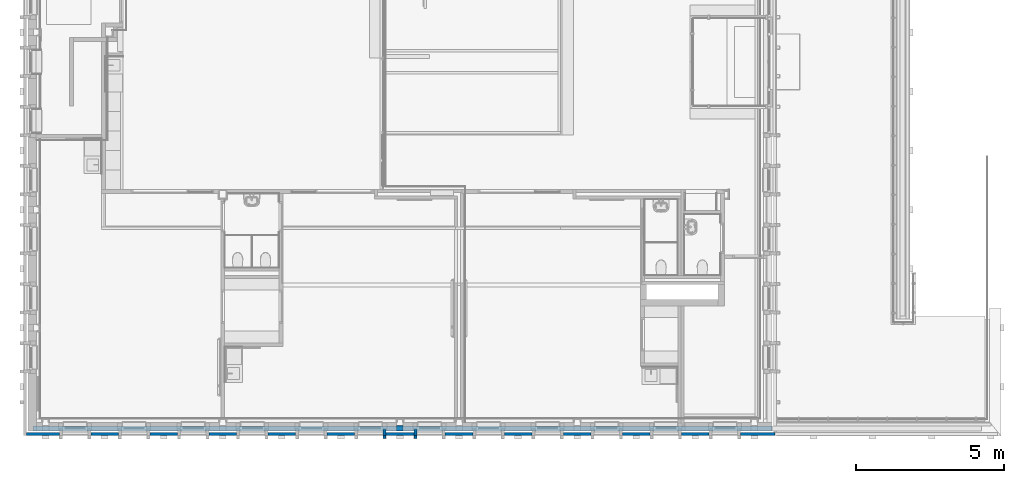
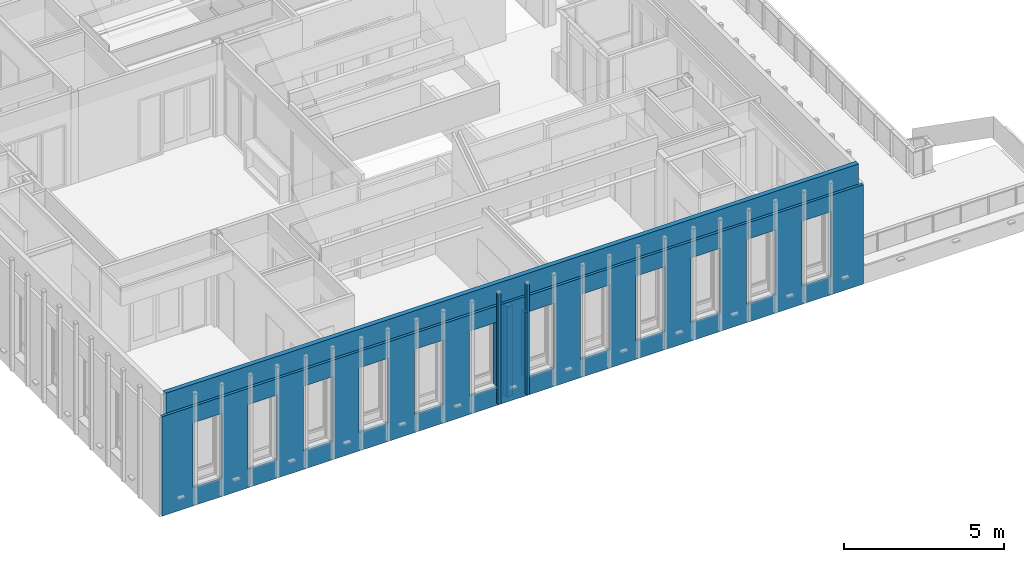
# One storey, part 29 of 118: 7 walls, 12 openings.
"""IFC2X3 building model written with IfcOpenShell, lengths in millimetres."""

from ifc_helpers import new_model, entity, si_unit, converted_unit, derived_unit, direction, frame, frame_2d, origin, place, context, subcontext, project, spatial, rectangle, extrude, faceted_brep, material, layer, layer_set, layer_usage, type_object, element, save


model = new_model("IFC2X3")

# Units and contexts
model_context = context("Model", 3, precision=0.01, world=origin(), true_north=direction((6.123031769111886e-17, 1.0)))
plan_context = context("Plan", 3, precision=0.01, world=origin(), true_north=direction((6.123031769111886e-17, 1.0)))
body_context = subcontext(model_context, "Body", "Model", "MODEL_VIEW")
ifc_project = project(units=[si_unit("LENGTHUNIT", "METRE", prefix="MILLI"), si_unit("AREAUNIT", "SQUARE_METRE"), si_unit("VOLUMEUNIT", "CUBIC_METRE"), converted_unit("PLANEANGLEUNIT", "DEGREE", entity("IfcRatioMeasure", 0.017453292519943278), si_unit("PLANEANGLEUNIT", "RADIAN"), dimensions=[0, 0, 0, 0, 0, 0, 0]), si_unit("MASSUNIT", "GRAM", prefix="KILO"), derived_unit("MASSDENSITYUNIT", [(si_unit("MASSUNIT", "GRAM", prefix="KILO"), 1), (si_unit("LENGTHUNIT", "METRE"), -3)]), derived_unit("IONCONCENTRATIONUNIT", [(si_unit("MASSUNIT", "GRAM", prefix="KILO"), 1), (si_unit("LENGTHUNIT", "METRE"), -3)]), derived_unit("MOMENTOFINERTIAUNIT", [(si_unit("LENGTHUNIT", "METRE"), 4)]), si_unit("TIMEUNIT", "SECOND"), si_unit("FREQUENCYUNIT", "HERTZ"), si_unit("THERMODYNAMICTEMPERATUREUNIT", "DEGREE_CELSIUS"), derived_unit("THERMALTRANSMITTANCEUNIT", [(si_unit("MASSUNIT", "GRAM", prefix="KILO"), 1), (si_unit("THERMODYNAMICTEMPERATUREUNIT", "KELVIN"), -1), (si_unit("TIMEUNIT", "SECOND"), -3)]), derived_unit("THERMALCONDUCTANCEUNIT", [(si_unit("MASSUNIT", "GRAM", prefix="KILO"), 1), (si_unit("THERMODYNAMICTEMPERATUREUNIT", "KELVIN"), -1), (si_unit("TIMEUNIT", "SECOND"), -3), (si_unit("LENGTHUNIT", "METRE"), 1)]), derived_unit("VOLUMETRICFLOWRATEUNIT", [(si_unit("LENGTHUNIT", "METRE"), 3), (si_unit("TIMEUNIT", "SECOND"), -1)]), derived_unit("MASSFLOWRATEUNIT", [(si_unit("MASSUNIT", "GRAM", prefix="KILO"), 1), (si_unit("TIMEUNIT", "SECOND"), -1)]), derived_unit("ROTATIONALFREQUENCYUNIT", [(si_unit("TIMEUNIT", "SECOND"), -1)]), si_unit("ELECTRICCURRENTUNIT", "AMPERE"), si_unit("ELECTRICVOLTAGEUNIT", "VOLT"), si_unit("POWERUNIT", "WATT"), si_unit("FORCEUNIT", "NEWTON", prefix="KILO"), si_unit("ILLUMINANCEUNIT", "LUX"), si_unit("LUMINOUSFLUXUNIT", "LUMEN"), si_unit("LUMINOUSINTENSITYUNIT", "CANDELA"), derived_unit("USERDEFINED", [(si_unit("MASSUNIT", "GRAM", prefix="KILO"), -1), (si_unit("LENGTHUNIT", "METRE"), -2), (si_unit("TIMEUNIT", "SECOND"), 3), (si_unit("LUMINOUSFLUXUNIT", "LUMEN"), 1)]), derived_unit("USERDEFINED", [(si_unit("MASSUNIT", "GRAM", prefix="KILO"), 1), (si_unit("TIMEUNIT", "SECOND"), -3), (si_unit("LENGTHUNIT", "METRE"), 3), (si_unit("ELECTRICCURRENTUNIT", "AMPERE"), -2)]), derived_unit("SOUNDPOWERUNIT", [(si_unit("MASSUNIT", "GRAM", prefix="KILO"), 1), (si_unit("TIMEUNIT", "SECOND"), -3), (si_unit("LENGTHUNIT", "METRE"), 2)]), derived_unit("SOUNDPRESSUREUNIT", [(si_unit("MASSUNIT", "GRAM", prefix="KILO"), 1), (si_unit("LENGTHUNIT", "METRE"), -1), (si_unit("TIMEUNIT", "SECOND"), -2)]), derived_unit("LINEARVELOCITYUNIT", [(si_unit("LENGTHUNIT", "METRE"), 1), (si_unit("TIMEUNIT", "SECOND"), -1)]), si_unit("PRESSUREUNIT", "PASCAL"), derived_unit("USERDEFINED", [(si_unit("MASSUNIT", "GRAM", prefix="KILO"), 1), (si_unit("LENGTHUNIT", "METRE"), -2), (si_unit("TIMEUNIT", "SECOND"), -2)]), derived_unit("LINEARFORCEUNIT", [(si_unit("MASSUNIT", "GRAM", prefix="KILO"), 1), (si_unit("TIMEUNIT", "SECOND"), -2)]), derived_unit("PLANARFORCEUNIT", [(si_unit("MASSUNIT", "GRAM", prefix="KILO"), 1), (si_unit("LENGTHUNIT", "METRE"), -1), (si_unit("TIMEUNIT", "SECOND"), -2)]), derived_unit("SPECIFICHEATCAPACITYUNIT", [(si_unit("THERMODYNAMICTEMPERATUREUNIT", "KELVIN"), -1), (si_unit("LENGTHUNIT", "METRE"), 2), (si_unit("TIMEUNIT", "SECOND"), -2)]), derived_unit("HEATINGVALUEUNIT", [(si_unit("LENGTHUNIT", "METRE"), 2), (si_unit("TIMEUNIT", "SECOND"), -2)]), derived_unit("VAPORPERMEABILITYUNIT", [(si_unit("LENGTHUNIT", "METRE"), -1), (si_unit("TIMEUNIT", "SECOND"), 1)]), derived_unit("DYNAMICVISCOSITYUNIT", [(si_unit("MASSUNIT", "GRAM", prefix="KILO"), 1), (si_unit("TIMEUNIT", "SECOND"), -1), (si_unit("LENGTHUNIT", "METRE"), -1)]), derived_unit("THERMALEXPANSIONCOEFFICIENTUNIT", [(si_unit("THERMODYNAMICTEMPERATUREUNIT", "KELVIN"), -1)]), derived_unit("MODULUSOFELASTICITYUNIT", [(si_unit("MASSUNIT", "GRAM", prefix="KILO"), 1), (si_unit("LENGTHUNIT", "METRE"), -1), (si_unit("TIMEUNIT", "SECOND"), -2)]), derived_unit("ISOTHERMALMOISTURECAPACITYUNIT", [(si_unit("LENGTHUNIT", "METRE"), 3), (si_unit("MASSUNIT", "GRAM", prefix="KILO"), -1)]), derived_unit("MOISTUREDIFFUSIVITYUNIT", [(si_unit("TIMEUNIT", "SECOND"), -1), (si_unit("LENGTHUNIT", "METRE"), 2)])], contexts=[model_context, plan_context])

# Site, building, storey
site_placement = place(None, origin())
site = spatial("IfcSite", under=ifc_project, at=site_placement, Name="Locatie", CompositionType="ELEMENT")
building_placement = place(site_placement, origin())
building = spatial("IfcBuilding", under=site, at=building_placement, Name="Bouwwerk", CompositionType="ELEMENT")
storey_placement = place(building_placement, frame((0.0, 0.0, 7800.0)))
storey = spatial("IfcBuildingStorey", under=building, at=storey_placement, Name="02 tweede verdieping", CompositionType="ELEMENT", Elevation=7800.000000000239)

# Wall, openings
ifc_material_1 = material(Name="g2_metselwerk_geel licht")
ifc_layer_1 = layer(ifc_material_1, 100.0)
ifc_layer_set_1 = layer_set([ifc_layer_1], Name="Basic Wall:21_WA_metselwerk_licht_100_gen_bdg")
ifc_layer_usage_1 = layer_usage(ifc_layer_set_1, "AXIS2", "NEGATIVE", 50.0)
wall_type_1 = type_object("IfcWallType", Name="Basic Wall:21_WA_metselwerk_licht_100_gen_bdg", PredefinedType="STANDARD", material=ifc_layer_set_1)
wall_1_placement = place(storey_placement, frame((35040.0, 9610.0, -100.0), z_axis=(0.0, 0.0, 1.0), x_axis=(-1.0, 0.0, 0.0)))
wall_1 = element("IfcWallStandardCase", 1, at=wall_1_placement, inside=storey, type_object=wall_type_1, material=ifc_layer_usage_1, Name="Basic Wall:21_WA_metselwerk_licht_100_gen_bdg", ObjectType="Basic Wall:21_WA_metselwerk_licht_100_gen_bdg", context=body_context, shape_type="SweptSolid", body=[
    extrude(rectangle(XDim=25329.999999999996, YDim=100.0, at=frame_2d((12714.999999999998, 6.110667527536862e-13), x_axis=(-1.0, 0.0))), origin(), (0.0, 0.0, 1.0), 3800.000000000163),
])
opening_1_placement = place(wall_1_placement, frame((4296.0, 50.0, 703.0)))
element("IfcOpeningElement", 2, at=opening_1_placement, cuts=wall_1, Name="Basic Wall:21_WA_metselwerk_licht_100_gen_bdg", ObjectType="Opening", context=body_context, shape_type="Brep", body=[
    faceted_brep([(-24.0, -100.0, 2472.0), (-103.0, -100.0, 2472.0), (-103.0, -100.0, 42.0), (-1009.0, -100.0, 42.0), (-1009.0, -100.0, 2472.0), (-1088.0, -100.0, 2472.0), (-1088.0, -100.0, 0.0), (-24.0, -100.0, 0.0), (-1088.0, 0.0, 2472.0), (-24.0, 0.0, 2472.0), (-24.0, 0.0, 0.0), (-1088.0, 0.0, 0.0), (-1112.0, -415.0, 2594.0), (-1112.0, -415.0, 11.0), (0.0, -415.0, 11.0), (0.0, -415.0, 2594.0), (-964.0, -415.0, 2443.0), (-148.0, -415.0, 2443.0), (-148.0, -415.0, 87.0), (-964.0, -415.0, 87.0), (-1112.0, -140.0, 2594.0), (0.0, -140.0, 2594.0), (0.0, -140.0, 11.0), (-1112.0, -140.0, 11.0), (-1009.0, -140.0, 42.0), (-103.0, -140.0, 42.0), (-103.0, -140.0, 2508.0), (-1009.0, -140.0, 2508.0), (-103.0, -100.0, 2508.0), (-1009.0, -100.0, 2508.0), (-964.0, -615.0, 2443.0), (-964.0, -615.0, 87.0), (-148.0, -615.0, 87.0), (-148.0, -615.0, 2443.0)], [[[0, 1, 2, 3, 4, 5, 6, 7]], [[8, 9, 10, 11]], [[5, 8, 11, 6]], [[6, 11, 10, 7]], [[7, 10, 9, 0]], [[8, 5, 4, 1, 0, 9]], [[12, 13, 14, 15], [16, 17, 18, 19]], [[20, 21, 22, 23], [24, 25, 26, 27]], [[12, 20, 23, 13]], [[13, 23, 22, 14]], [[14, 22, 21, 15]], [[15, 21, 20, 12]], [[28, 1, 4, 29]], [[24, 27, 29, 4, 3]], [[3, 2, 25, 24]], [[2, 1, 28, 26, 25]], [[29, 27, 26, 28]], [[30, 31, 32, 33]], [[30, 16, 19, 31]], [[31, 19, 18, 32]], [[32, 18, 17, 33]], [[33, 17, 16, 30]]]),
])
opening_2_placement = place(wall_1_placement, frame((6296.0, 50.0, 703.0)))
element("IfcOpeningElement", 3, at=opening_2_placement, cuts=wall_1, Name="Basic Wall:21_WA_metselwerk_licht_100_gen_bdg", ObjectType="Opening", context=body_context, shape_type="Brep", body=[
    faceted_brep([(-24.0, -100.0, 2472.0), (-103.0, -100.0, 2472.0), (-103.0, -100.0, 42.0), (-1009.0, -100.0, 42.0), (-1009.0, -100.0, 2472.0), (-1088.0, -100.0, 2472.0), (-1088.0, -100.0, 0.0), (-24.0, -100.0, 0.0), (-1088.0, 0.0, 2472.0), (-24.0, 0.0, 2472.0), (-24.0, 0.0, 0.0), (-1088.0, 0.0, 0.0), (-1112.0, -415.0, 2594.0), (-1112.0, -415.0, 11.0), (0.0, -415.0, 11.0), (0.0, -415.0, 2594.0), (-964.0, -415.0, 2443.0), (-148.0, -415.0, 2443.0), (-148.0, -415.0, 87.0), (-964.0, -415.0, 87.0), (-1112.0, -140.0, 2594.0), (0.0, -140.0, 2594.0), (0.0, -140.0, 11.0), (-1112.0, -140.0, 11.0), (-1009.0, -140.0, 42.0), (-103.0, -140.0, 42.0), (-103.0, -140.0, 2508.0), (-1009.0, -140.0, 2508.0), (-103.0, -100.0, 2508.0), (-1009.0, -100.0, 2508.0), (-964.0, -615.0, 2443.0), (-964.0, -615.0, 87.0), (-148.0, -615.0, 87.0), (-148.0, -615.0, 2443.0)], [[[0, 1, 2, 3, 4, 5, 6, 7]], [[8, 9, 10, 11]], [[5, 8, 11, 6]], [[6, 11, 10, 7]], [[7, 10, 9, 0]], [[8, 5, 4, 1, 0, 9]], [[12, 13, 14, 15], [16, 17, 18, 19]], [[20, 21, 22, 23], [24, 25, 26, 27]], [[12, 20, 23, 13]], [[13, 23, 22, 14]], [[14, 22, 21, 15]], [[15, 21, 20, 12]], [[28, 1, 4, 29]], [[24, 27, 29, 4, 3]], [[3, 2, 25, 24]], [[2, 1, 28, 26, 25]], [[29, 27, 26, 28]], [[30, 31, 32, 33]], [[30, 16, 19, 31]], [[31, 19, 18, 32]], [[32, 18, 17, 33]], [[33, 17, 16, 30]]]),
])
opening_3_placement = place(wall_1_placement, frame((2296.0, 50.0, 703.0)))
element("IfcOpeningElement", 4, at=opening_3_placement, cuts=wall_1, Name="Basic Wall:21_WA_metselwerk_licht_100_gen_bdg", ObjectType="Opening", context=body_context, shape_type="Brep", body=[
    faceted_brep([(-24.0, -100.0, 2472.0), (-103.0, -100.0, 2472.0), (-103.0, -100.0, 42.0), (-1009.0, -100.0, 42.0), (-1009.0, -100.0, 2472.0), (-1088.0, -100.0, 2472.0), (-1088.0, -100.0, 0.0), (-24.0, -100.0, 0.0), (-1088.0, 0.0, 2472.0), (-24.0, 0.0, 2472.0), (-24.0, 0.0, 0.0), (-1088.0, 0.0, 0.0), (-1112.0, -415.0, 2594.0), (-1112.0, -415.0, 11.0), (0.0, -415.0, 11.0), (0.0, -415.0, 2594.0), (-964.0, -415.0, 2443.0), (-148.0, -415.0, 2443.0), (-148.0, -415.0, 87.0), (-964.0, -415.0, 87.0), (-1112.0, -140.0, 2594.0), (0.0, -140.0, 2594.0), (0.0, -140.0, 11.0), (-1112.0, -140.0, 11.0), (-1009.0, -140.0, 42.0), (-103.0, -140.0, 42.0), (-103.0, -140.0, 2508.0), (-1009.0, -140.0, 2508.0), (-103.0, -100.0, 2508.0), (-1009.0, -100.0, 2508.0), (-964.0, -615.0, 2443.0), (-964.0, -615.0, 87.0), (-148.0, -615.0, 87.0), (-148.0, -615.0, 2443.0)], [[[0, 1, 2, 3, 4, 5, 6, 7]], [[8, 9, 10, 11]], [[5, 8, 11, 6]], [[6, 11, 10, 7]], [[7, 10, 9, 0]], [[8, 5, 4, 1, 0, 9]], [[12, 13, 14, 15], [16, 17, 18, 19]], [[20, 21, 22, 23], [24, 25, 26, 27]], [[12, 20, 23, 13]], [[13, 23, 22, 14]], [[14, 22, 21, 15]], [[15, 21, 20, 12]], [[28, 1, 4, 29]], [[24, 27, 29, 4, 3]], [[3, 2, 25, 24]], [[2, 1, 28, 26, 25]], [[29, 27, 26, 28]], [[30, 31, 32, 33]], [[30, 16, 19, 31]], [[31, 19, 18, 32]], [[32, 18, 17, 33]], [[33, 17, 16, 30]]]),
])
opening_4_placement = place(wall_1_placement, frame((8296.0, 50.0, 703.0)))
element("IfcOpeningElement", 5, at=opening_4_placement, cuts=wall_1, Name="Basic Wall:21_WA_metselwerk_licht_100_gen_bdg", ObjectType="Opening", context=body_context, shape_type="Brep", body=[
    faceted_brep([(-24.0, -100.0, 2472.0), (-103.0, -100.0, 2472.0), (-103.0, -100.0, 42.0), (-1009.0, -100.0, 42.0), (-1009.0, -100.0, 2472.0), (-1088.0, -100.0, 2472.0), (-1088.0, -100.0, 0.0), (-24.0, -100.0, 0.0), (-1088.0, 0.0, 2472.0), (-24.0, 0.0, 2472.0), (-24.0, 0.0, 0.0), (-1088.0, 0.0, 0.0), (-1112.0, -415.0, 2594.0), (-1112.0, -415.0, 11.0), (0.0, -415.0, 11.0), (0.0, -415.0, 2594.0), (-964.0, -415.0, 2443.0), (-148.0, -415.0, 2443.0), (-148.0, -415.0, 87.0), (-964.0, -415.0, 87.0), (-1112.0, -140.0, 2594.0), (0.0, -140.0, 2594.0), (0.0, -140.0, 11.0), (-1112.0, -140.0, 11.0), (-1009.0, -140.0, 42.0), (-103.0, -140.0, 42.0), (-103.0, -140.0, 2508.0), (-1009.0, -140.0, 2508.0), (-103.0, -100.0, 2508.0), (-1009.0, -100.0, 2508.0), (-964.0, -615.0, 2443.0), (-964.0, -615.0, 87.0), (-148.0, -615.0, 87.0), (-148.0, -615.0, 2443.0)], [[[0, 1, 2, 3, 4, 5, 6, 7]], [[8, 9, 10, 11]], [[5, 8, 11, 6]], [[6, 11, 10, 7]], [[7, 10, 9, 0]], [[8, 5, 4, 1, 0, 9]], [[12, 13, 14, 15], [16, 17, 18, 19]], [[20, 21, 22, 23], [24, 25, 26, 27]], [[12, 20, 23, 13]], [[13, 23, 22, 14]], [[14, 22, 21, 15]], [[15, 21, 20, 12]], [[28, 1, 4, 29]], [[24, 27, 29, 4, 3]], [[3, 2, 25, 24]], [[2, 1, 28, 26, 25]], [[29, 27, 26, 28]], [[30, 31, 32, 33]], [[30, 16, 19, 31]], [[31, 19, 18, 32]], [[32, 18, 17, 33]], [[33, 17, 16, 30]]]),
])
opening_5_placement = place(wall_1_placement, frame((10296.0, 50.0, 703.0)))
element("IfcOpeningElement", 6, at=opening_5_placement, cuts=wall_1, Name="Basic Wall:21_WA_metselwerk_licht_100_gen_bdg", ObjectType="Opening", context=body_context, shape_type="Brep", body=[
    faceted_brep([(-24.0, -100.0, 2472.0), (-103.0, -100.0, 2472.0), (-103.0, -100.0, 42.0), (-1009.0, -100.0, 42.0), (-1009.0, -100.0, 2472.0), (-1088.0, -100.0, 2472.0), (-1088.0, -100.0, 0.0), (-24.0, -100.0, 0.0), (-1088.0, 0.0, 2472.0), (-24.0, 0.0, 2472.0), (-24.0, 0.0, 0.0), (-1088.0, 0.0, 0.0), (-1112.0, -415.0, 2594.0), (-1112.0, -415.0, 11.0), (0.0, -415.0, 11.0), (0.0, -415.0, 2594.0), (-964.0, -415.0, 2443.0), (-148.0, -415.0, 2443.0), (-148.0, -415.0, 87.0), (-964.0, -415.0, 87.0), (-1112.0, -140.0, 2594.0), (0.0, -140.0, 2594.0), (0.0, -140.0, 11.0), (-1112.0, -140.0, 11.0), (-1009.0, -140.0, 42.0), (-103.0, -140.0, 42.0), (-103.0, -140.0, 2508.0), (-1009.0, -140.0, 2508.0), (-103.0, -100.0, 2508.0), (-1009.0, -100.0, 2508.0), (-964.0, -615.0, 2443.0), (-964.0, -615.0, 87.0), (-148.0, -615.0, 87.0), (-148.0, -615.0, 2443.0)], [[[0, 1, 2, 3, 4, 5, 6, 7]], [[8, 9, 10, 11]], [[5, 8, 11, 6]], [[6, 11, 10, 7]], [[7, 10, 9, 0]], [[8, 5, 4, 1, 0, 9]], [[12, 13, 14, 15], [16, 17, 18, 19]], [[20, 21, 22, 23], [24, 25, 26, 27]], [[12, 20, 23, 13]], [[13, 23, 22, 14]], [[14, 22, 21, 15]], [[15, 21, 20, 12]], [[28, 1, 4, 29]], [[24, 27, 29, 4, 3]], [[3, 2, 25, 24]], [[2, 1, 28, 26, 25]], [[29, 27, 26, 28]], [[30, 31, 32, 33]], [[30, 16, 19, 31]], [[31, 19, 18, 32]], [[32, 18, 17, 33]], [[33, 17, 16, 30]]]),
])
opening_6_placement = place(wall_1_placement, frame((14296.0, 50.0, 703.0)))
element("IfcOpeningElement", 7, at=opening_6_placement, cuts=wall_1, Name="Basic Wall:21_WA_metselwerk_licht_100_gen_bdg", ObjectType="Opening", context=body_context, shape_type="Brep", body=[
    faceted_brep([(-24.0, -100.0, 2472.0), (-103.0, -100.0, 2472.0), (-103.0, -100.0, 42.0), (-1009.0, -100.0, 42.0), (-1009.0, -100.0, 2472.0), (-1088.0, -100.0, 2472.0), (-1088.0, -100.0, 0.0), (-24.0, -100.0, 0.0), (-1088.0, 0.0, 2472.0), (-24.0, 0.0, 2472.0), (-24.0, 0.0, 0.0), (-1088.0, 0.0, 0.0), (-1112.0, -415.0, 2594.0), (-1112.0, -415.0, 11.0), (0.0, -415.0, 11.0), (0.0, -415.0, 2594.0), (-964.0, -415.0, 2443.0), (-148.0, -415.0, 2443.0), (-148.0, -415.0, 87.0), (-964.0, -415.0, 87.0), (-1112.0, -140.0, 2594.0), (0.0, -140.0, 2594.0), (0.0, -140.0, 11.0), (-1112.0, -140.0, 11.0), (-1009.0, -140.0, 42.0), (-103.0, -140.0, 42.0), (-103.0, -140.0, 2508.0), (-1009.0, -140.0, 2508.0), (-103.0, -100.0, 2508.0), (-1009.0, -100.0, 2508.0), (-964.0, -615.0, 2443.0), (-964.0, -615.0, 87.0), (-148.0, -615.0, 87.0), (-148.0, -615.0, 2443.0)], [[[0, 1, 2, 3, 4, 5, 6, 7]], [[8, 9, 10, 11]], [[5, 8, 11, 6]], [[6, 11, 10, 7]], [[7, 10, 9, 0]], [[8, 5, 4, 1, 0, 9]], [[12, 13, 14, 15], [16, 17, 18, 19]], [[20, 21, 22, 23], [24, 25, 26, 27]], [[12, 20, 23, 13]], [[13, 23, 22, 14]], [[14, 22, 21, 15]], [[15, 21, 20, 12]], [[28, 1, 4, 29]], [[24, 27, 29, 4, 3]], [[3, 2, 25, 24]], [[2, 1, 28, 26, 25]], [[29, 27, 26, 28]], [[30, 31, 32, 33]], [[30, 16, 19, 31]], [[31, 19, 18, 32]], [[32, 18, 17, 33]], [[33, 17, 16, 30]]]),
])
opening_7_placement = place(wall_1_placement, frame((16296.0, 50.0, 703.0)))
element("IfcOpeningElement", 8, at=opening_7_placement, cuts=wall_1, Name="Basic Wall:21_WA_metselwerk_licht_100_gen_bdg", ObjectType="Opening", context=body_context, shape_type="Brep", body=[
    faceted_brep([(-24.0, -100.0, 2472.0), (-103.0, -100.0, 2472.0), (-103.0, -100.0, 42.0), (-1009.0, -100.0, 42.0), (-1009.0, -100.0, 2472.0), (-1088.0, -100.0, 2472.0), (-1088.0, -100.0, 0.0), (-24.0, -100.0, 0.0), (-1088.0, 0.0, 2472.0), (-24.0, 0.0, 2472.0), (-24.0, 0.0, 0.0), (-1088.0, 0.0, 0.0), (-1112.0, -415.0, 2594.0), (-1112.0, -415.0, 11.0), (0.0, -415.0, 11.0), (0.0, -415.0, 2594.0), (-964.0, -415.0, 2443.0), (-148.0, -415.0, 2443.0), (-148.0, -415.0, 87.0), (-964.0, -415.0, 87.0), (-1112.0, -140.0, 2594.0), (0.0, -140.0, 2594.0), (0.0, -140.0, 11.0), (-1112.0, -140.0, 11.0), (-1009.0, -140.0, 42.0), (-103.0, -140.0, 42.0), (-103.0, -140.0, 2508.0), (-1009.0, -140.0, 2508.0), (-103.0, -100.0, 2508.0), (-1009.0, -100.0, 2508.0), (-964.0, -615.0, 2443.0), (-964.0, -615.0, 87.0), (-148.0, -615.0, 87.0), (-148.0, -615.0, 2443.0)], [[[0, 1, 2, 3, 4, 5, 6, 7]], [[8, 9, 10, 11]], [[5, 8, 11, 6]], [[6, 11, 10, 7]], [[7, 10, 9, 0]], [[8, 5, 4, 1, 0, 9]], [[12, 13, 14, 15], [16, 17, 18, 19]], [[20, 21, 22, 23], [24, 25, 26, 27]], [[12, 20, 23, 13]], [[13, 23, 22, 14]], [[14, 22, 21, 15]], [[15, 21, 20, 12]], [[28, 1, 4, 29]], [[24, 27, 29, 4, 3]], [[3, 2, 25, 24]], [[2, 1, 28, 26, 25]], [[29, 27, 26, 28]], [[30, 31, 32, 33]], [[30, 16, 19, 31]], [[31, 19, 18, 32]], [[32, 18, 17, 33]], [[33, 17, 16, 30]]]),
])
opening_8_placement = place(wall_1_placement, frame((18296.0, 50.0, 703.0)))
element("IfcOpeningElement", 9, at=opening_8_placement, cuts=wall_1, Name="Basic Wall:21_WA_metselwerk_licht_100_gen_bdg", ObjectType="Opening", context=body_context, shape_type="Brep", body=[
    faceted_brep([(-24.0, -100.0, 2472.0), (-103.0, -100.0, 2472.0), (-103.0, -100.0, 42.0), (-1009.0, -100.0, 42.0), (-1009.0, -100.0, 2472.0), (-1088.0, -100.0, 2472.0), (-1088.0, -100.0, 0.0), (-24.0, -100.0, 0.0), (-1088.0, 0.0, 2472.0), (-24.0, 0.0, 2472.0), (-24.0, 0.0, 0.0), (-1088.0, 0.0, 0.0), (-1112.0, -415.0, 2594.0), (-1112.0, -415.0, 11.0), (0.0, -415.0, 11.0), (0.0, -415.0, 2594.0), (-964.0, -415.0, 2443.0), (-148.0, -415.0, 2443.0), (-148.0, -415.0, 87.0), (-964.0, -415.0, 87.0), (-1112.0, -140.0, 2594.0), (0.0, -140.0, 2594.0), (0.0, -140.0, 11.0), (-1112.0, -140.0, 11.0), (-1009.0, -140.0, 42.0), (-103.0, -140.0, 42.0), (-103.0, -140.0, 2508.0), (-1009.0, -140.0, 2508.0), (-103.0, -100.0, 2508.0), (-1009.0, -100.0, 2508.0), (-964.0, -615.0, 2443.0), (-964.0, -615.0, 87.0), (-148.0, -615.0, 87.0), (-148.0, -615.0, 2443.0)], [[[0, 1, 2, 3, 4, 5, 6, 7]], [[8, 9, 10, 11]], [[5, 8, 11, 6]], [[6, 11, 10, 7]], [[7, 10, 9, 0]], [[8, 5, 4, 1, 0, 9]], [[12, 13, 14, 15], [16, 17, 18, 19]], [[20, 21, 22, 23], [24, 25, 26, 27]], [[12, 20, 23, 13]], [[13, 23, 22, 14]], [[14, 22, 21, 15]], [[15, 21, 20, 12]], [[28, 1, 4, 29]], [[24, 27, 29, 4, 3]], [[3, 2, 25, 24]], [[2, 1, 28, 26, 25]], [[29, 27, 26, 28]], [[30, 31, 32, 33]], [[30, 16, 19, 31]], [[31, 19, 18, 32]], [[32, 18, 17, 33]], [[33, 17, 16, 30]]]),
])
opening_9_placement = place(wall_1_placement, frame((20296.0, 50.0, 703.0)))
element("IfcOpeningElement", 10, at=opening_9_placement, cuts=wall_1, Name="Basic Wall:21_WA_metselwerk_licht_100_gen_bdg", ObjectType="Opening", context=body_context, shape_type="Brep", body=[
    faceted_brep([(-24.0, -100.0, 2472.0), (-103.0, -100.0, 2472.0), (-103.0, -100.0, 42.0), (-1009.0, -100.0, 42.0), (-1009.0, -100.0, 2472.0), (-1088.0, -100.0, 2472.0), (-1088.0, -100.0, 0.0), (-24.0, -100.0, 0.0), (-1088.0, 0.0, 2472.0), (-24.0, 0.0, 2472.0), (-24.0, 0.0, 0.0), (-1088.0, 0.0, 0.0), (-1112.0, -415.0, 2594.0), (-1112.0, -415.0, 11.0), (0.0, -415.0, 11.0), (0.0, -415.0, 2594.0), (-964.0, -415.0, 2443.0), (-148.0, -415.0, 2443.0), (-148.0, -415.0, 87.0), (-964.0, -415.0, 87.0), (-1112.0, -140.0, 2594.0), (0.0, -140.0, 2594.0), (0.0, -140.0, 11.0), (-1112.0, -140.0, 11.0), (-1009.0, -140.0, 42.0), (-103.0, -140.0, 42.0), (-103.0, -140.0, 2508.0), (-1009.0, -140.0, 2508.0), (-103.0, -100.0, 2508.0), (-1009.0, -100.0, 2508.0), (-964.0, -615.0, 2443.0), (-964.0, -615.0, 87.0), (-148.0, -615.0, 87.0), (-148.0, -615.0, 2443.0)], [[[0, 1, 2, 3, 4, 5, 6, 7]], [[8, 9, 10, 11]], [[5, 8, 11, 6]], [[6, 11, 10, 7]], [[7, 10, 9, 0]], [[8, 5, 4, 1, 0, 9]], [[12, 13, 14, 15], [16, 17, 18, 19]], [[20, 21, 22, 23], [24, 25, 26, 27]], [[12, 20, 23, 13]], [[13, 23, 22, 14]], [[14, 22, 21, 15]], [[15, 21, 20, 12]], [[28, 1, 4, 29]], [[24, 27, 29, 4, 3]], [[3, 2, 25, 24]], [[2, 1, 28, 26, 25]], [[29, 27, 26, 28]], [[30, 31, 32, 33]], [[30, 16, 19, 31]], [[31, 19, 18, 32]], [[32, 18, 17, 33]], [[33, 17, 16, 30]]]),
])
opening_10_placement = place(wall_1_placement, frame((22296.0, 50.0, 703.0)))
element("IfcOpeningElement", 11, at=opening_10_placement, cuts=wall_1, Name="Basic Wall:21_WA_metselwerk_licht_100_gen_bdg", ObjectType="Opening", context=body_context, shape_type="Brep", body=[
    faceted_brep([(-24.0, -100.0, 2472.0), (-103.0, -100.0, 2472.0), (-103.0, -100.0, 42.0), (-1009.0, -100.0, 42.0), (-1009.0, -100.0, 2472.0), (-1088.0, -100.0, 2472.0), (-1088.0, -100.0, 0.0), (-24.0, -100.0, 0.0), (-1088.0, 0.0, 2472.0), (-24.0, 0.0, 2472.0), (-24.0, 0.0, 0.0), (-1088.0, 0.0, 0.0), (-1112.0, -415.0, 2594.0), (-1112.0, -415.0, 11.0), (0.0, -415.0, 11.0), (0.0, -415.0, 2594.0), (-964.0, -415.0, 2443.0), (-148.0, -415.0, 2443.0), (-148.0, -415.0, 87.0), (-964.0, -415.0, 87.0), (-1112.0, -140.0, 2594.0), (0.0, -140.0, 2594.0), (0.0, -140.0, 11.0), (-1112.0, -140.0, 11.0), (-1009.0, -140.0, 42.0), (-103.0, -140.0, 42.0), (-103.0, -140.0, 2508.0), (-1009.0, -140.0, 2508.0), (-103.0, -100.0, 2508.0), (-1009.0, -100.0, 2508.0), (-964.0, -615.0, 2443.0), (-964.0, -615.0, 87.0), (-148.0, -615.0, 87.0), (-148.0, -615.0, 2443.0)], [[[0, 1, 2, 3, 4, 5, 6, 7]], [[8, 9, 10, 11]], [[5, 8, 11, 6]], [[6, 11, 10, 7]], [[7, 10, 9, 0]], [[8, 5, 4, 1, 0, 9]], [[12, 13, 14, 15], [16, 17, 18, 19]], [[20, 21, 22, 23], [24, 25, 26, 27]], [[12, 20, 23, 13]], [[13, 23, 22, 14]], [[14, 22, 21, 15]], [[15, 21, 20, 12]], [[28, 1, 4, 29]], [[24, 27, 29, 4, 3]], [[3, 2, 25, 24]], [[2, 1, 28, 26, 25]], [[29, 27, 26, 28]], [[30, 31, 32, 33]], [[30, 16, 19, 31]], [[31, 19, 18, 32]], [[32, 18, 17, 33]], [[33, 17, 16, 30]]]),
])
opening_11_placement = place(wall_1_placement, frame((24296.0, 50.0, 703.0)))
element("IfcOpeningElement", 12, at=opening_11_placement, cuts=wall_1, Name="Basic Wall:21_WA_metselwerk_licht_100_gen_bdg", ObjectType="Opening", context=body_context, shape_type="Brep", body=[
    faceted_brep([(-24.0, -100.0, 2472.0), (-103.0, -100.0, 2472.0), (-103.0, -100.0, 42.0), (-1009.0, -100.0, 42.0), (-1009.0, -100.0, 2472.0), (-1088.0, -100.0, 2472.0), (-1088.0, -100.0, 0.0), (-24.0, -100.0, 0.0), (-1088.0, 0.0, 2472.0), (-24.0, 0.0, 2472.0), (-24.0, 0.0, 0.0), (-1088.0, 0.0, 0.0), (-1112.0, -415.0, 2594.0), (-1112.0, -415.0, 11.0), (0.0, -415.0, 11.0), (0.0, -415.0, 2594.0), (-964.0, -415.0, 2443.0), (-148.0, -415.0, 2443.0), (-148.0, -415.0, 87.0), (-964.0, -415.0, 87.0), (-1112.0, -140.0, 2594.0), (0.0, -140.0, 2594.0), (0.0, -140.0, 11.0), (-1112.0, -140.0, 11.0), (-1009.0, -140.0, 42.0), (-103.0, -140.0, 42.0), (-103.0, -140.0, 2508.0), (-1009.0, -140.0, 2508.0), (-103.0, -100.0, 2508.0), (-1009.0, -100.0, 2508.0), (-964.0, -615.0, 2443.0), (-964.0, -615.0, 87.0), (-148.0, -615.0, 87.0), (-148.0, -615.0, 2443.0)], [[[0, 1, 2, 3, 4, 5, 6, 7]], [[8, 9, 10, 11]], [[5, 8, 11, 6]], [[6, 11, 10, 7]], [[7, 10, 9, 0]], [[8, 5, 4, 1, 0, 9]], [[12, 13, 14, 15], [16, 17, 18, 19]], [[20, 21, 22, 23], [24, 25, 26, 27]], [[12, 20, 23, 13]], [[13, 23, 22, 14]], [[14, 22, 21, 15]], [[15, 21, 20, 12]], [[28, 1, 4, 29]], [[24, 27, 29, 4, 3]], [[3, 2, 25, 24]], [[2, 1, 28, 26, 25]], [[29, 27, 26, 28]], [[30, 31, 32, 33]], [[30, 16, 19, 31]], [[31, 19, 18, 32]], [[32, 18, 17, 33]], [[33, 17, 16, 30]]]),
])
opening_12_placement = place(wall_1_placement, frame((12296.0, 50.0, 703.0)))
element("IfcOpeningElement", 13, at=opening_12_placement, cuts=wall_1, Name="Basic Wall:21_WA_metselwerk_licht_100_gen_bdg", ObjectType="Opening", context=body_context, shape_type="Brep", body=[
    faceted_brep([(-24.0, -100.0, 2472.0), (-103.0, -100.0, 2472.0), (-103.0, -100.0, 42.0), (-1009.0, -100.0, 42.0), (-1009.0, -100.0, 2472.0), (-1088.0, -100.0, 2472.0), (-1088.0, -100.0, 0.0), (-24.0, -100.0, 0.0), (-1088.0, 0.0, 2472.0), (-24.0, 0.0, 2472.0), (-24.0, 0.0, 0.0), (-1088.0, 0.0, 0.0), (-1112.0, -415.0, 2594.0), (-1112.0, -415.0, 11.0), (0.0, -415.0, 11.0), (0.0, -415.0, 2594.0), (-964.0, -415.0, 2443.0), (-148.0, -415.0, 2443.0), (-148.0, -415.0, 87.0), (-964.0, -415.0, 87.0), (-1112.0, -140.0, 2594.0), (0.0, -140.0, 2594.0), (0.0, -140.0, 11.0), (-1112.0, -140.0, 11.0), (-1009.0, -140.0, 42.0), (-103.0, -140.0, 42.0), (-103.0, -140.0, 2508.0), (-1009.0, -140.0, 2508.0), (-103.0, -100.0, 2508.0), (-1009.0, -100.0, 2508.0), (-964.0, -615.0, 2443.0), (-964.0, -615.0, 87.0), (-148.0, -615.0, 87.0), (-148.0, -615.0, 2443.0)], [[[0, 1, 2, 3, 4, 5, 6, 7]], [[8, 9, 10, 11]], [[5, 8, 11, 6]], [[6, 11, 10, 7]], [[7, 10, 9, 0]], [[8, 5, 4, 1, 0, 9]], [[12, 13, 14, 15], [16, 17, 18, 19]], [[20, 21, 22, 23], [24, 25, 26, 27]], [[12, 20, 23, 13]], [[13, 23, 22, 14]], [[14, 22, 21, 15]], [[15, 21, 20, 12]], [[28, 1, 4, 29]], [[24, 27, 29, 4, 3]], [[3, 2, 25, 24]], [[2, 1, 28, 26, 25]], [[29, 27, 26, 28]], [[30, 31, 32, 33]], [[30, 16, 19, 31]], [[31, 19, 18, 32]], [[32, 18, 17, 33]], [[33, 17, 16, 30]]]),
])

# Walls
wall_2_placement = place(storey_placement, frame((22818.0, 9770.0, 603.0), z_axis=(0.0, 0.0, 1.0), x_axis=(0.0, -1.0, 0.0)))
element("IfcWallStandardCase", 14, at=wall_2_placement, inside=storey, type_object=wall_type_1, material=ifc_layer_usage_1, Name="Basic Wall:21_WA_metselwerk_licht_100_gen_bdg", ObjectType="Basic Wall:21_WA_metselwerk_licht_100_gen_bdg", context=body_context, shape_type="SweptSolid", body=[
    extrude(rectangle(XDim=210.00000000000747, YDim=100.00000000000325, at=frame_2d((105.00000000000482, -1.7053025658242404e-13), x_axis=(-1.0, 0.0))), origin(), (0.0, 0.0, 1.0), 2471.999999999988),
])
wall_3_placement = place(storey_placement, frame((22818.0, 9560.0, 0.0), z_axis=(0.0, 0.0, 1.0), x_axis=(0.0, -1.0, 0.0)))
element("IfcWallStandardCase", 15, at=wall_3_placement, inside=storey, type_object=wall_type_1, material=ifc_layer_usage_1, Name="Basic Wall:21_WA_metselwerk_licht_100_gen_bdg", ObjectType="Basic Wall:21_WA_metselwerk_licht_100_gen_bdg", context=body_context, shape_type="SweptSolid", body=[
    extrude(rectangle(XDim=115.00000000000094, YDim=100.00000000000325, at=frame_2d((57.50000000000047, 3.730349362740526e-13), x_axis=(-1.0, 0.0))), origin(), (0.0, 0.0, 1.0), 4232.000000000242),
])
ifc_layer_usage_2 = layer_usage(ifc_layer_set_1, "AXIS2", "POSITIVE", -50.0)
wall_4_placement = place(storey_placement, frame((21782.0, 9770.0, 603.0), z_axis=(0.0, 0.0, 1.0), x_axis=(0.0, -1.0, 0.0)))
element("IfcWallStandardCase", 16, at=wall_4_placement, inside=storey, type_object=wall_type_1, material=ifc_layer_usage_2, Name="Basic Wall:21_WA_metselwerk_licht_100_gen_bdg", ObjectType="Basic Wall:21_WA_metselwerk_licht_100_gen_bdg", context=body_context, shape_type="SweptSolid", body=[
    extrude(rectangle(XDim=210.00000000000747, YDim=100.00000000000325, at=frame_2d((105.00000000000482, 1.3145040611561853e-12), x_axis=(-1.0, 0.0))), origin(), (0.0, 0.0, 1.0), 2471.999999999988),
])
wall_5_placement = place(storey_placement, frame((21782.0, 9560.0, 0.0), z_axis=(0.0, 0.0, 1.0), x_axis=(0.0, -1.0, 0.0)))
element("IfcWallStandardCase", 17, at=wall_5_placement, inside=storey, type_object=wall_type_1, material=ifc_layer_usage_2, Name="Basic Wall:21_WA_metselwerk_licht_100_gen_bdg", ObjectType="Basic Wall:21_WA_metselwerk_licht_100_gen_bdg", context=body_context, shape_type="SweptSolid", body=[
    extrude(rectangle(XDim=115.00000000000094, YDim=100.00000000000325, at=frame_2d((57.50000000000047, 3.730349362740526e-13), x_axis=(-1.0, 0.0))), origin(), (0.0, 0.0, 1.0), 4231.99999999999),
])
ifc_material_2 = material(Name="n7_isolatie_glaswol")
ifc_layer_2 = layer(ifc_material_2, 160.0)
ifc_material_3 = material(Name="i4_multiplex")
ifc_layer_3 = layer(ifc_material_3, 10.0)
ifc_layer_set_2 = layer_set([ifc_layer_2, ifc_layer_3], Name="Basic Wall:NLRS_22_WA_HSB dakrand 160+10 _gen_bdg")
ifc_layer_usage_3 = layer_usage(ifc_layer_set_2, "AXIS2", "NEGATIVE", 85.0)
wall_type_2 = type_object("IfcWallType", Name="Basic Wall:NLRS_22_WA_HSB dakrand 160+10 _gen_bdg", PredefinedType="STANDARD", material=ifc_layer_set_2)
wall_6_placement = place(storey_placement, frame((34900.0, 9783.0, 3235.0), z_axis=(0.0, 0.0, 1.0), x_axis=(-1.0, 0.0, 0.0)))
element("IfcWallStandardCase", 18, at=wall_6_placement, inside=storey, type_object=wall_type_2, material=ifc_layer_usage_3, Name="Basic Wall:NLRS_22_WA_HSB dakrand 160+10 _gen_bdg", ObjectType="Basic Wall:NLRS_22_WA_HSB dakrand 160+10 _gen_bdg", context=body_context, shape_type="SweptSolid", body=[
    extrude(rectangle(XDim=25030.000000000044, YDim=170.00000000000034, at=frame_2d((12515.000000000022, 8.526512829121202e-14), x_axis=(-1.0, 0.0))), origin(), (0.0, 0.0, 1.0), 1205.0000000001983),
])
ifc_material_4 = material(Name="n7_isolatie_Resol")
ifc_layer_4 = layer(ifc_material_4, 200.0)
ifc_layer_set_3 = layer_set([ifc_layer_4], Name="Basic Wall:NLRS_22_WA_HSB bispouw 200_gen_ISR")
ifc_layer_usage_4 = layer_usage(ifc_layer_set_3, "AXIS2", "NEGATIVE", 100.0)
wall_type_3 = type_object("IfcWallType", Name="Basic Wall:NLRS_22_WA_HSB bispouw 200_gen_ISR", PredefinedType="STANDARD", material=ifc_layer_set_3)
wall_7_placement = place(storey_placement, frame((22410.0, 9800.0, -30.0), z_axis=(0.0, 0.0, 1.0), x_axis=(-1.0, 0.0, 0.0)))
element("IfcWallStandardCase", 19, at=wall_7_placement, inside=storey, type_object=wall_type_3, material=ifc_layer_usage_4, Name="Basic Wall:NLRS_22_WA_HSB bispouw 200_gen_ISR", ObjectType="Basic Wall:NLRS_22_WA_HSB bispouw 200_gen_ISR", context=body_context, shape_type="SweptSolid", body=[
    extrude(rectangle(XDim=220.000000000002, YDim=200.0000000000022, at=frame_2d((110.00000000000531, -4.476419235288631e-13), x_axis=(-1.0, 0.0))), origin(), (0.0, 0.0, 1.0), 3440.0000000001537),
])

save(model, "model.ifc")
